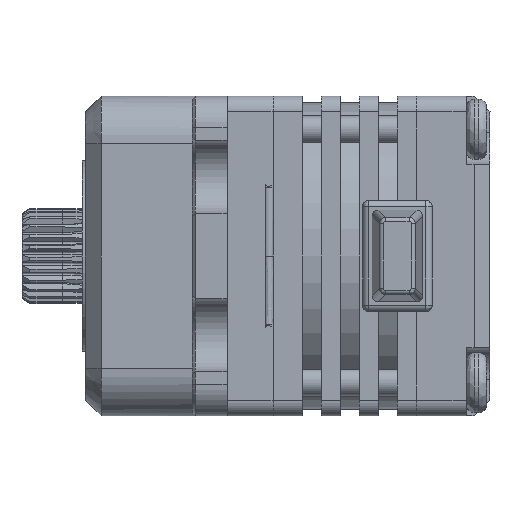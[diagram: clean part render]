
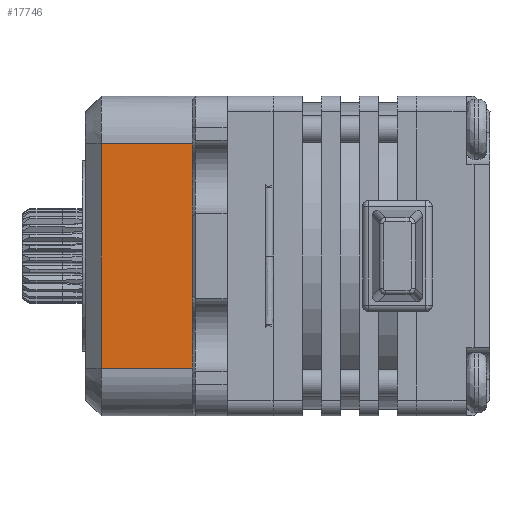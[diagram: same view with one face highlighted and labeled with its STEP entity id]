
A CAD part, left-side view. The second image highlights one B-rep face of the part: STEP entity #17746.
In plain terms, the highlighted planar face has unit normal (-1, 0, 0).
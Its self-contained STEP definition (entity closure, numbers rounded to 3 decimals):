
#1217 = EDGE_CURVE ( 'NONE', #23842, #2956, #10129, .T. ) ;
#1808 = VERTEX_POINT ( 'NONE', #23128 ) ;
#2329 = ORIENTED_EDGE ( 'NONE', *, *, #39498, .F. ) ;
#2547 = CARTESIAN_POINT ( 'NONE',  ( -9.04, 2.2, 8.1 ) ) ;
#2694 = CARTESIAN_POINT ( 'NONE',  ( -9.04, 8.95, 7.1 ) ) ;
#2956 = VERTEX_POINT ( 'NONE', #41982 ) ;
#3290 = EDGE_LOOP ( 'NONE', ( #2329, #6252, #26887, #36741 ) ) ;
#5810 = LINE ( 'NONE', #45336, #45532 ) ;
#6252 = ORIENTED_EDGE ( 'NONE', *, *, #43141, .F. ) ;
#6894 = VECTOR ( 'NONE', #20125, 1000. ) ;
#9243 = DIRECTION ( 'NONE',  ( 1., 0., 0. ) ) ;
#9314 = DIRECTION ( 'NONE',  ( 0., 0., 1. ) ) ;
#10129 = LINE ( 'NONE', #2547, #6894 ) ;
#12396 = VECTOR ( 'NONE', #9314, 1000. ) ;
#12659 = CARTESIAN_POINT ( 'NONE',  ( -9.04, 7.95, -10.1 ) ) ;
#13011 = VECTOR ( 'NONE', #21691, 1000. ) ;
#16214 = LINE ( 'NONE', #12659, #12396 ) ;
#17746 = ADVANCED_FACE ( 'NONE', ( #45737 ), #27370, .F. ) ;
#20125 = DIRECTION ( 'NONE',  ( 0., 0., -1. ) ) ;
#20280 = DIRECTION ( 'NONE',  ( 0., 1., 0. ) ) ;
#21691 = DIRECTION ( 'NONE',  ( 0., -1., 0. ) ) ;
#23128 = CARTESIAN_POINT ( 'NONE',  ( -9.04, 7.95, 7.1 ) ) ;
#23842 = VERTEX_POINT ( 'NONE', #27518 ) ;
#26887 = ORIENTED_EDGE ( 'NONE', *, *, #1217, .F. ) ;
#27370 = PLANE ( 'NONE',  #39273 ) ;
#27518 = CARTESIAN_POINT ( 'NONE',  ( -9.04, 2.2, 7.1 ) ) ;
#27607 = CARTESIAN_POINT ( 'NONE',  ( -9.04, 8.95, -10.1 ) ) ;
#29505 = CARTESIAN_POINT ( 'NONE',  ( -9.04, 7.95, -7.1 ) ) ;
#36741 = ORIENTED_EDGE ( 'NONE', *, *, #45385, .F. ) ;
#38376 = DIRECTION ( 'NONE',  ( 0., -1., 0. ) ) ;
#39273 = AXIS2_PLACEMENT_3D ( 'NONE', #27607, #9243, #38376 ) ;
#39498 = EDGE_CURVE ( 'NONE', #39940, #1808, #16214, .T. ) ;
#39940 = VERTEX_POINT ( 'NONE', #29505 ) ;
#41982 = CARTESIAN_POINT ( 'NONE',  ( -9.04, 2.2, -7.1 ) ) ;
#42744 = LINE ( 'NONE', #2694, #13011 ) ;
#43141 = EDGE_CURVE ( 'NONE', #2956, #39940, #5810, .T. ) ;
#45336 = CARTESIAN_POINT ( 'NONE',  ( -9.04, 8.95, -7.1 ) ) ;
#45385 = EDGE_CURVE ( 'NONE', #1808, #23842, #42744, .T. ) ;
#45532 = VECTOR ( 'NONE', #20280, 1000. ) ;
#45737 = FACE_OUTER_BOUND ( 'NONE', #3290, .T. ) ;
